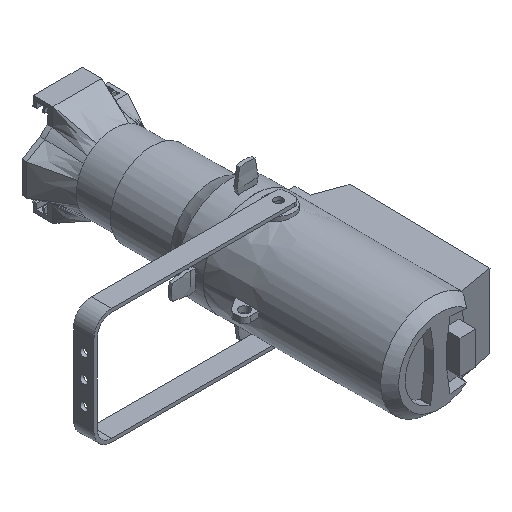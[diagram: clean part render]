
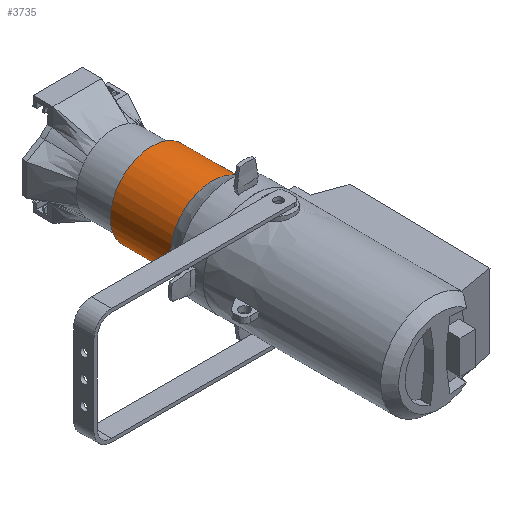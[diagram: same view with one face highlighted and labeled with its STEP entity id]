
A CAD part, isometric view. The second image highlights one B-rep face of the part: STEP entity #3735.
In plain terms, the highlighted cylindrical face has radius 71.5 mm (diameter 143 mm), a full revolution.
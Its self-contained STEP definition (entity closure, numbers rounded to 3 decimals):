
#576=FACE_OUTER_BOUND('',#813,.T.);
#813=EDGE_LOOP('',(#3496,#3497,#3498,#3499,#3500));
#1096=LINE('',#28767,#1377);
#1377=VECTOR('',#5089,71.5);
#1496=CIRCLE('',#4106,71.5);
#1497=CIRCLE('',#4107,71.5);
#1498=CIRCLE('',#4109,71.5);
#1865=VERTEX_POINT('',#28759);
#1866=VERTEX_POINT('',#28761);
#1867=VERTEX_POINT('',#28765);
#2409=EDGE_CURVE('',#1866,#1865,#1496,.T.);
#2410=EDGE_CURVE('',#1865,#1866,#1497,.T.);
#2411=EDGE_CURVE('',#1867,#1867,#1498,.T.);
#2412=EDGE_CURVE('',#1867,#1866,#1096,.T.);
#3496=ORIENTED_EDGE('',*,*,#2411,.T.);
#3497=ORIENTED_EDGE('',*,*,#2412,.T.);
#3498=ORIENTED_EDGE('',*,*,#2409,.T.);
#3499=ORIENTED_EDGE('',*,*,#2410,.T.);
#3500=ORIENTED_EDGE('',*,*,#2412,.F.);
#3534=CYLINDRICAL_SURFACE('',#4108,71.5);
#3735=ADVANCED_FACE('',(#576),#3534,.T.);
#4106=AXIS2_PLACEMENT_3D('',#28762,#5081,#5082);
#4107=AXIS2_PLACEMENT_3D('',#28763,#5083,#5084);
#4108=AXIS2_PLACEMENT_3D('',#28764,#5085,#5086);
#4109=AXIS2_PLACEMENT_3D('',#28766,#5087,#5088);
#5081=DIRECTION('center_axis',(0.,1.,0.));
#5082=DIRECTION('ref_axis',(1.,0.,0.));
#5083=DIRECTION('center_axis',(0.,1.,0.));
#5084=DIRECTION('ref_axis',(1.,0.,0.));
#5085=DIRECTION('center_axis',(0.,1.,0.));
#5086=DIRECTION('ref_axis',(1.,0.,0.));
#5087=DIRECTION('center_axis',(0.,-1.,0.));
#5088=DIRECTION('ref_axis',(-1.,0.,0.));
#5089=DIRECTION('',(0.,-1.,0.));
#28759=CARTESIAN_POINT('',(-55.545,162.291,-45.023));
#28761=CARTESIAN_POINT('',(-71.5,162.291,0.));
#28762=CARTESIAN_POINT('Origin',(0.,162.291,0.));
#28763=CARTESIAN_POINT('Origin',(0.,162.291,0.));
#28764=CARTESIAN_POINT('Origin',(0.,162.291,0.));
#28765=CARTESIAN_POINT('',(-71.5,266.,0.));
#28766=CARTESIAN_POINT('Origin',(0.,266.,0.));
#28767=CARTESIAN_POINT('',(-71.5,162.291,0.));
